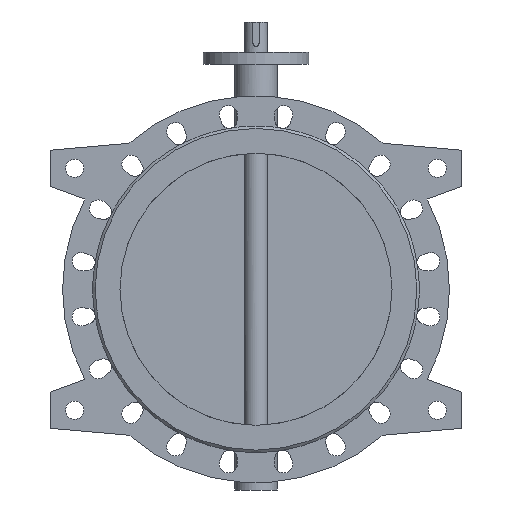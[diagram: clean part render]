
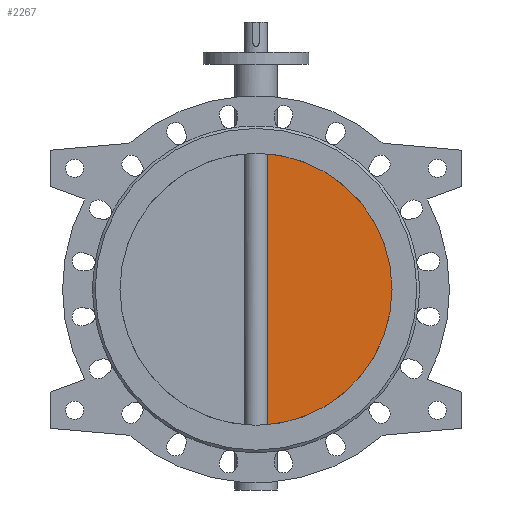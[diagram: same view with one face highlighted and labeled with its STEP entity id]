
A CAD part, front view. The second image highlights one B-rep face of the part: STEP entity #2267.
In plain terms, the highlighted planar face has unit normal (0, -1, 0).
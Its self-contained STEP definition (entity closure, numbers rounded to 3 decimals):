
#2267=ADVANCED_FACE('',(#4263),#4265,.T.);
#4263=FACE_BOUND('',#4264,.T.);
#4264=EDGE_LOOP('',(#5967,#5968));
#4265=PLANE('',#4266);
#4266=AXIS2_PLACEMENT_3D('',#4267,#4268,#4269);
#4267=CARTESIAN_POINT('',(0.,-7.5,0.));
#4268=DIRECTION('',(0.,-1.,0.));
#4269=DIRECTION('',(1.,0.,0.));
#5967=ORIENTED_EDGE('',*,*,#6817,.T.);
#5968=ORIENTED_EDGE('',*,*,#6823,.T.);
#6817=EDGE_CURVE('',#8205,#8206,#8207,.F.);
#6823=EDGE_CURVE('',#8206,#8205,#8217,.T.);
#8205=VERTEX_POINT('',#13819);
#8206=VERTEX_POINT('',#13820);
#8207=CIRCLE('',#13821,225.);
#8217=LINE('',#14001,#14002);
#13819=CARTESIAN_POINT('',(18.54,-7.5,-224.235));
#13820=CARTESIAN_POINT('',(18.54,-7.5,224.235));
#13821=AXIS2_PLACEMENT_3D('',#13822,#13823,#13824);
#13822=CARTESIAN_POINT('',(0.,-7.5,0.));
#13823=DIRECTION('',(0.,1.,0.));
#13824=DIRECTION('',(0.082,0.,0.997));
#14001=CARTESIAN_POINT('',(18.54,-7.5,224.235));
#14002=VECTOR('',#14003,1.);
#14003=DIRECTION('',(0.,0.,-1.));
